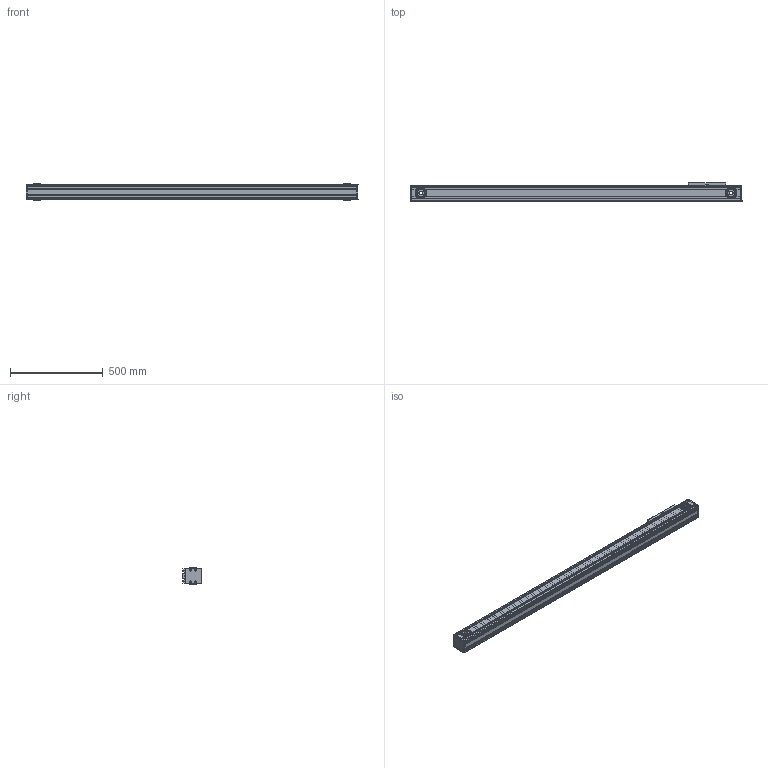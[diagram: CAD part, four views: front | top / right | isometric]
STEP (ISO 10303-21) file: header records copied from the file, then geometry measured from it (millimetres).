
FILE_DESCRIPTION (( 'STEP AP214' ), '1' );
FILE_NAME ('TKR80-1400A1-F0-R3-高速内滚轮直线模组.step', '2025-10-10T03:26:58', ( '' ), ( '' ), 'SwSTEP 2.0', 'SolidWorks 2024', '' );
FILE_SCHEMA (( 'AUTOMOTIVE_DESIGN' ));
Length unit declared in the file: millimetre
Products named in the file (3): TKR80-R3-02; TKR80-1400-R3-01; TKR80-1400A1-F0-R3-高速内滚轮直线模组
Assembly tree (2 placements, depth 2):
  TKR80-1400A1-F0-R3-高速内滚轮直线模组
    TKR80-1400-R3-01
    TKR80-R3-02
Bounding box: 1786 x 100 x 87 mm (x, y, z)
Volume: 5266504 mm3; surface area: 2067659.5 mm2
Topology: 1 solids, 52 shells, 2499 faces, 6775 edges, 4338 vertices
Faces by surface type: cylinder 1279, plane 770, torus 244, cone 182, sphere 24
Entity records: 120687 total; most frequent: CARTESIAN_POINT 31465, ORIENTED_EDGE 13382, DIRECTION 13179, EDGE_CURVE 6731, AXIS2_PLACEMENT_3D 5137, VERTEX_POINT 4338, LINE 2905, VECTOR 2905
